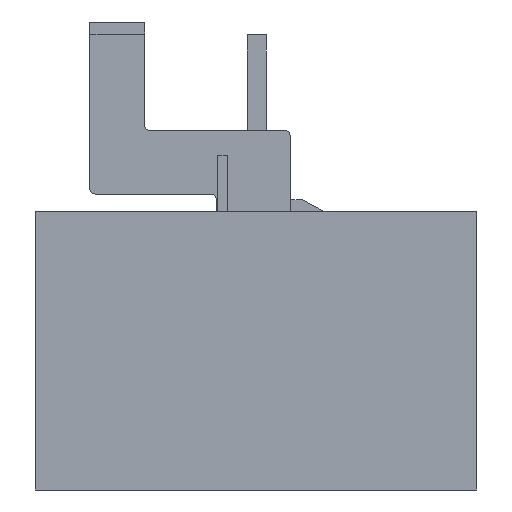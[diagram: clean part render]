
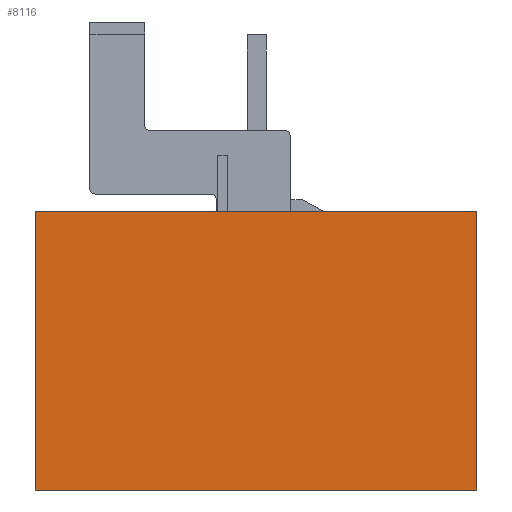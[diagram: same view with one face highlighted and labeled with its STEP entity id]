
A CAD part, front view. The second image highlights one B-rep face of the part: STEP entity #8116.
In plain terms, the highlighted planar face has unit normal (0, -1, 0).
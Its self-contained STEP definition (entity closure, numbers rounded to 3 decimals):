
#196 = LINE ( 'NONE', #6826, #8771 ) ;
#420 = ORIENTED_EDGE ( 'NONE', *, *, #5436, .F. ) ;
#436 = EDGE_CURVE ( 'NONE', #1125, #683, #6299, .T. ) ;
#683 = VERTEX_POINT ( 'NONE', #4778 ) ;
#1125 = VERTEX_POINT ( 'NONE', #5521 ) ;
#1239 = AXIS2_PLACEMENT_3D ( 'NONE', #7165, #2201, #7994 ) ;
#2201 = DIRECTION ( 'NONE',  ( 0., 1., 0. ) ) ;
#2451 = EDGE_LOOP ( 'NONE', ( #9311, #420, #6928, #5800 ) ) ;
#2668 = CARTESIAN_POINT ( 'NONE',  ( -82.5, 0., 52. ) ) ;
#3316 = CARTESIAN_POINT ( 'NONE',  ( 82.5, 0., 0. ) ) ;
#3383 = EDGE_CURVE ( 'NONE', #7527, #1125, #6941, .T. ) ;
#3508 = EDGE_CURVE ( 'NONE', #683, #7381, #196, .T. ) ;
#4495 = VECTOR ( 'NONE', #9944, 1000. ) ;
#4778 = CARTESIAN_POINT ( 'NONE',  ( -82.5, 0., -52. ) ) ;
#5436 = EDGE_CURVE ( 'NONE', #7381, #7527, #9926, .T. ) ;
#5521 = CARTESIAN_POINT ( 'NONE',  ( 82.5, 0., -52. ) ) ;
#5749 = FACE_OUTER_BOUND ( 'NONE', #2451, .T. ) ;
#5800 = ORIENTED_EDGE ( 'NONE', *, *, #436, .F. ) ;
#6281 = PLANE ( 'NONE',  #1239 ) ;
#6299 = LINE ( 'NONE', #9330, #7988 ) ;
#6816 = DIRECTION ( 'NONE',  ( -1., 0., 0. ) ) ;
#6826 = CARTESIAN_POINT ( 'NONE',  ( -82.5, 0., 0. ) ) ;
#6861 = DIRECTION ( 'NONE',  ( 1., 0., 0. ) ) ;
#6928 = ORIENTED_EDGE ( 'NONE', *, *, #3508, .F. ) ;
#6941 = LINE ( 'NONE', #3316, #4495 ) ;
#7165 = CARTESIAN_POINT ( 'NONE',  ( 0., 0., 0. ) ) ;
#7381 = VERTEX_POINT ( 'NONE', #2668 ) ;
#7475 = VECTOR ( 'NONE', #6861, 1000. ) ;
#7527 = VERTEX_POINT ( 'NONE', #10548 ) ;
#7654 = DIRECTION ( 'NONE',  ( 0., 0., 1. ) ) ;
#7988 = VECTOR ( 'NONE', #6816, 1000. ) ;
#7994 = DIRECTION ( 'NONE',  ( 0., 0., 1. ) ) ;
#8116 = ADVANCED_FACE ( 'NONE', ( #5749 ), #6281, .F. ) ;
#8771 = VECTOR ( 'NONE', #7654, 1000. ) ;
#9311 = ORIENTED_EDGE ( 'NONE', *, *, #3383, .F. ) ;
#9330 = CARTESIAN_POINT ( 'NONE',  ( 0., 0., -52. ) ) ;
#9926 = LINE ( 'NONE', #10161, #7475 ) ;
#9944 = DIRECTION ( 'NONE',  ( 0., 0., -1. ) ) ;
#10161 = CARTESIAN_POINT ( 'NONE',  ( 0., 0., 52. ) ) ;
#10548 = CARTESIAN_POINT ( 'NONE',  ( 82.5, 0., 52. ) ) ;
